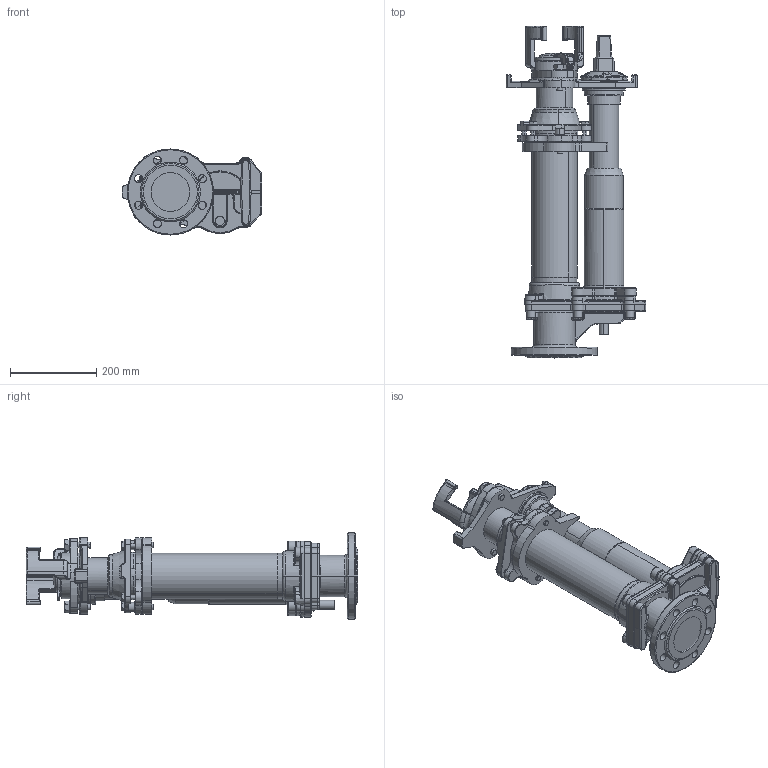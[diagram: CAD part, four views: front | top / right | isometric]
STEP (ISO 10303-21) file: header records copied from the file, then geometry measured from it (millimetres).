
FILE_DESCRIPTION (( 'STEP AP203' ), '1' );
FILE_NAME ('H-UFH RD1,0 Flansch_203.STEP', '2019-05-06T13:45:28', ( '' ), ( '' ), 'SwSTEP 2.0', 'SolidWorks 2019', '' );
FILE_SCHEMA (( 'CONFIG_CONTROL_DESIGN' ));
Length unit declared in the file: millimetre
Products named in the file (1): H-UFH RD1,0 Flansch_203
Bounding box: 324.28 x 770.73 x 200 mm (x, y, z)
Volume: 11980254.3 mm3; surface area: 853462.5 mm2
Topology: 3 solids, 3 shells, 3062 faces, 7980 edges, 4806 vertices
Faces by surface type: bspline 929, cylinder 919, plane 667, torus 325, cone 173, sphere 49
Entity records: 141811 total; most frequent: CARTESIAN_POINT 73789, ORIENTED_EDGE 15722, DIRECTION 12604, EDGE_CURVE 7861, AXIS2_PLACEMENT_3D 5223, VERTEX_POINT 4791, EDGE_LOOP 3164, CIRCLE 3089
